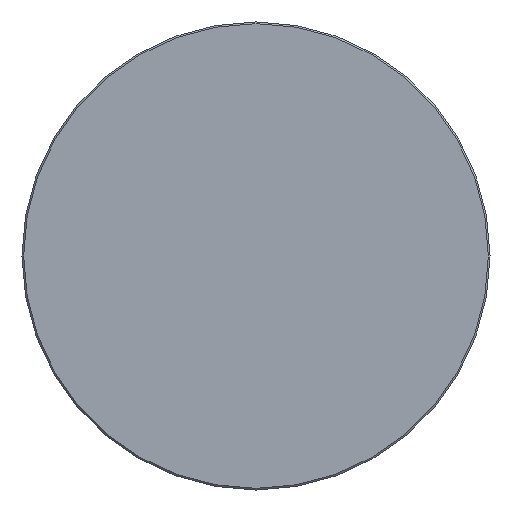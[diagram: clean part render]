
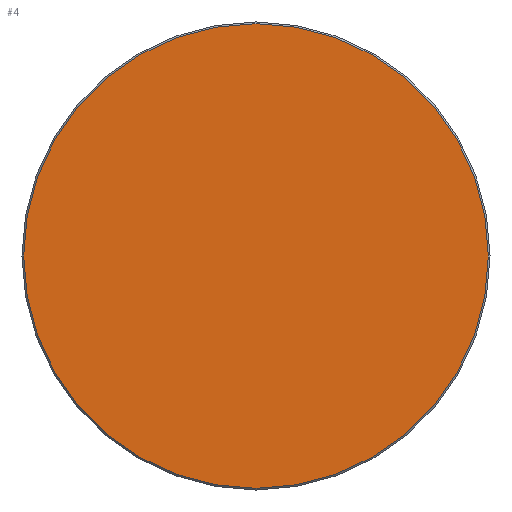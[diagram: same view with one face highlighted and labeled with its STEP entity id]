
A CAD part, left-side view. The second image highlights one B-rep face of the part: STEP entity #4.
In plain terms, the highlighted planar face has unit normal (-1, 0, 0).
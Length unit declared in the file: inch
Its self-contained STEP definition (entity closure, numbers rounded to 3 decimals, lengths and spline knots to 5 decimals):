
#4 = ADVANCED_FACE ( 'NONE', ( #352 ), #127, .T. ) ;
#23 = ORIENTED_EDGE ( 'NONE', *, *, #182, .T. ) ;
#28 = DIRECTION ( 'NONE',  ( -1., 0., 0. ) ) ;
#62 = CIRCLE ( 'NONE', #135, 0.5585 ) ;
#90 = EDGE_CURVE ( 'NONE', #318, #205, #62, .T. ) ;
#106 = CARTESIAN_POINT ( 'NONE',  ( 0., 0.5585, 0. ) ) ;
#112 = CIRCLE ( 'NONE', #265, 0.5585 ) ;
#127 = PLANE ( 'NONE',  #346 ) ;
#129 = CARTESIAN_POINT ( 'NONE',  ( 0., 0., 0. ) ) ;
#135 = AXIS2_PLACEMENT_3D ( 'NONE', #240, #266, #237 ) ;
#164 = CARTESIAN_POINT ( 'NONE',  ( 0., 0., 0. ) ) ;
#182 = EDGE_CURVE ( 'NONE', #205, #318, #112, .T. ) ;
#205 = VERTEX_POINT ( 'NONE', #106 ) ;
#237 = DIRECTION ( 'NONE',  ( 0., -1., 0. ) ) ;
#238 = EDGE_LOOP ( 'NONE', ( #23, #331 ) ) ;
#240 = CARTESIAN_POINT ( 'NONE',  ( 0., 0., 0. ) ) ;
#265 = AXIS2_PLACEMENT_3D ( 'NONE', #164, #28, #307 ) ;
#266 = DIRECTION ( 'NONE',  ( -1., 0., 0. ) ) ;
#307 = DIRECTION ( 'NONE',  ( 0., -1., 0. ) ) ;
#318 = VERTEX_POINT ( 'NONE', #341 ) ;
#331 = ORIENTED_EDGE ( 'NONE', *, *, #90, .T. ) ;
#341 = CARTESIAN_POINT ( 'NONE',  ( 0., -0.5585, 0. ) ) ;
#346 = AXIS2_PLACEMENT_3D ( 'NONE', #129, #362, #366 ) ;
#352 = FACE_OUTER_BOUND ( 'NONE', #238, .T. ) ;
#362 = DIRECTION ( 'NONE',  ( -1., 0., 0. ) ) ;
#366 = DIRECTION ( 'NONE',  ( 0., -1., 0. ) ) ;
